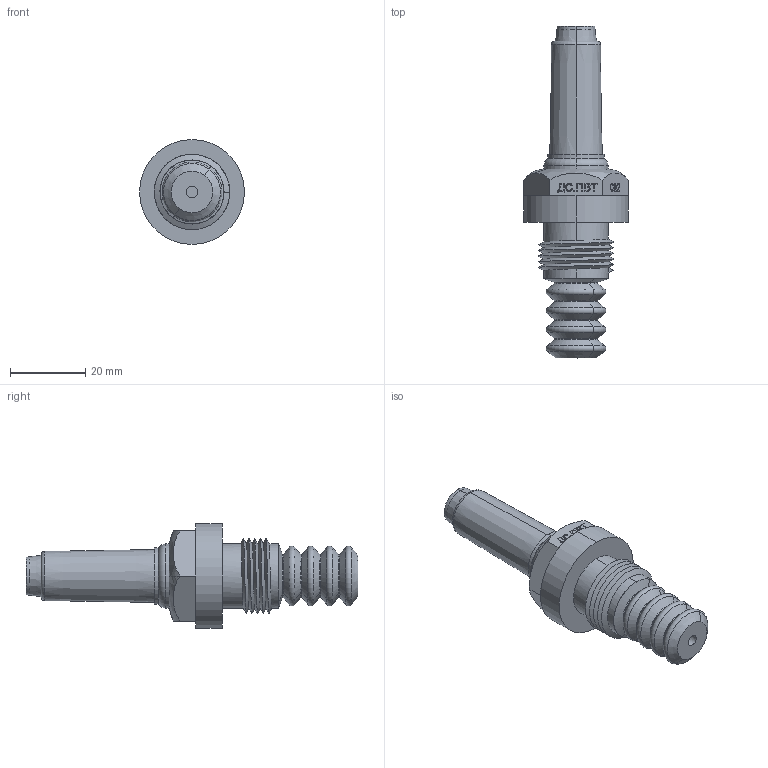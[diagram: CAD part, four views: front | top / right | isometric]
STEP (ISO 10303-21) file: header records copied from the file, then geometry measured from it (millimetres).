
FILE_DESCRIPTION (( 'STEP AP214' ), '1' );
FILE_NAME ('3D ìîäåëü ÄÑ.ÏÂÒ.G1_2.STEP', '2017-09-06T12:37:15', ( '' ), ( '' ), 'SwSTEP 2.0', 'SolidWorks 2014', '' );
FILE_SCHEMA (( 'AUTOMOTIVE_DESIGN' ));
Length unit declared in the file: millimetre
Products named in the file (7): plain washer 6903 type ab_din_DIN 6903-A4; 懾譈鴀_懤瀖G1_00; 扻錝僝樏_00; hex thin nut chamfered gradeab_din_Hexagon Thin Nut ISO 4035 - M4 - N; Èçîëÿòîð_00; Èçîëÿòîð âåðõíèé_00; 3D ìîäåëü ÄÑ.ÏÂÒ.G1_2
Assembly tree (8 placements, depth 2):
  3D ìîäåëü ÄÑ.ÏÂÒ.G1_2
    懾譈鴀_懤瀖G1_00
    Èçîëÿòîð_00
    Èçîëÿòîð âåðõíèé_00
    hex thin nut chamfered gradeab_din_Hexagon Thin Nut ISO 4035 - M4 - N  x2
    plain washer 6903 type ab_din_DIN 6903-A4  x2
    扻錝僝樏_00
Bounding box: 27.8 x 88 x 27.8 mm (x, y, z)
Volume: 18532.1 mm3; surface area: 10219.8 mm2
Topology: 8 solids, 8 shells, 300 faces, 699 edges, 438 vertices
Faces by surface type: plane 125, cone 56, cylinder 49, bspline 42, torus 28
Entity records: 12219 total; most frequent: CARTESIAN_POINT 4746, ORIENTED_EDGE 1254, DIRECTION 1130, EDGE_CURVE 627, AXIS2_PLACEMENT_3D 401, VERTEX_POINT 396, VECTOR 328, LINE 328
